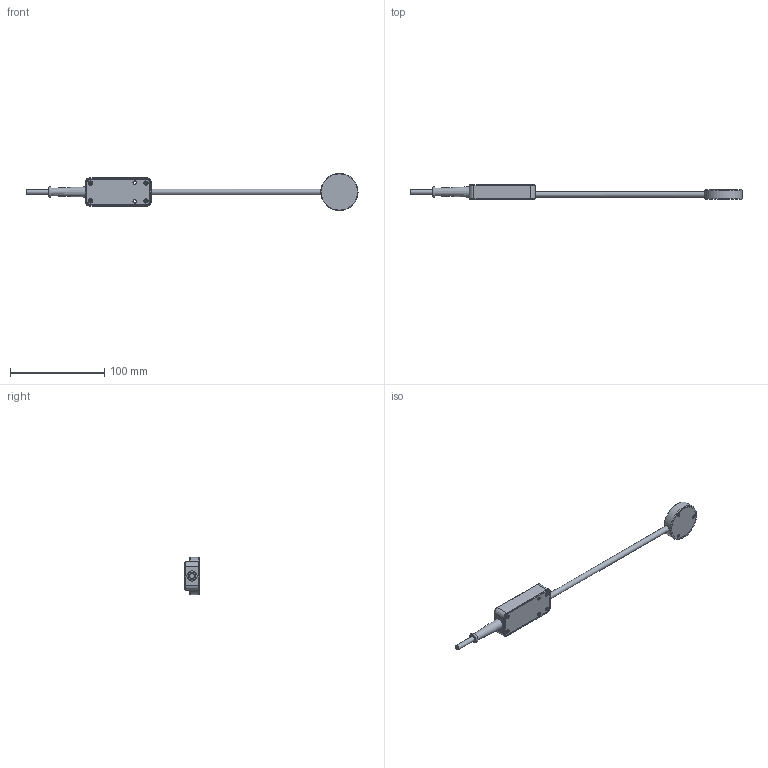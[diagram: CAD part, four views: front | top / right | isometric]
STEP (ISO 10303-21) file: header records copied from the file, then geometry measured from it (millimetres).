
FILE_DESCRIPTION (( 'STEP AP203' ), '1' );
FILE_NAME ('Zusammenbau_Sensorsystem_V1_defeature_XTR.STEP', '2026-09-02T10:03:16', ( '' ), ( '' ), 'SwSTEP 2.0', 'SolidWorks 2025', '' );
FILE_SCHEMA (( 'CONFIG_CONTROL_DESIGN' ));
Length unit declared in the file: millimetre
Products named in the file (1): Zusammenbau_Sensorsystem_V1_defeature_XTR
Bounding box: 352.8 x 15 x 39.6 mm (x, y, z)
Volume: 53243.6 mm3; surface area: 18479.1 mm2
Topology: 5 solids, 5 shells, 298 faces, 730 edges, 460 vertices
Faces by surface type: cylinder 116, plane 110, cone 71, torus 1
Full cylindrical faces by diameter (mm): 2 x3, 3.4 x2, 3.6 x2, 3.8 x7, 5 x2, 6 x1, 10 x1, 36 x1, 39.6 x1
Entity records: 9433 total; most frequent: CARTESIAN_POINT 2914, ORIENTED_EDGE 1350, DIRECTION 1242, EDGE_CURVE 675, AXIS2_PLACEMENT_3D 521, VERTEX_POINT 447, EDGE_LOOP 362, FACE_OUTER_BOUND 319
